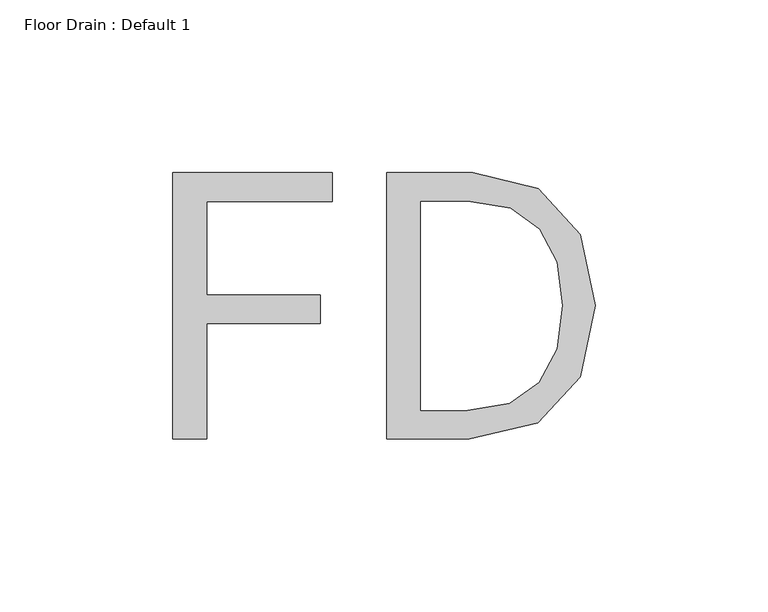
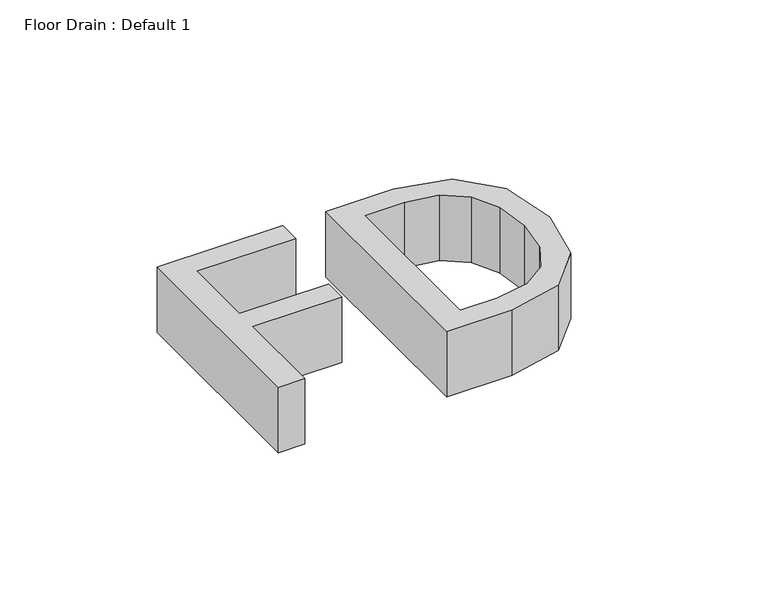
"""IFC4 building model written with IfcOpenShell, lengths in millimetres: proxy geometry, Floor Drain : Default 1."""

import ifcopenshell
import ifcopenshell.guid

model = None  # the IFC model being written
_history = None  # IfcOwnerHistory: only IFC2X3 demands one
_inside = {}  # id of a spatial element -> (the spatial element, [elements in it])
_under = {}  # id of a project, library or spatial element -> (it, [spatial elements below it])
_declared = {}  # id of a project -> (the project, [libraries it declares])
_typed = {}  # id of a type object -> (the type object, [elements of that type])
_made_of = {}  # id of a material, layer set ... -> (it, [elements and type objects made of it])


def new_model(schema):
    """Start an empty IFC model of exactly this schema.

    Asked for "IFC4X3", IfcOpenShell would pick the latest addendum, in which some entities
    have other attributes; the version numbers below select the first issue.
    IFC2X3 requires an IfcOwnerHistory on every rooted entity: one is made here for all.
    """
    global model, _history
    if schema == "IFC4X3":
        model = ifcopenshell.file(schema_version=(4, 3, 0, 0))
    else:
        model = ifcopenshell.file(schema=schema)
    _inside.clear()
    _under.clear()
    _declared.clear()
    _typed.clear()
    _made_of.clear()
    _history = None
    if model.schema == "IFC2X3":
        org = make("IfcOrganization", Name="unknown")
        user = make(
            "IfcPersonAndOrganization",
            ThePerson=make("IfcPerson", FamilyName="unknown"),
            TheOrganization=org,
        )
        app = make(
            "IfcApplication",
            ApplicationDeveloper=org,
            Version="unknown",
            ApplicationFullName="unknown",
            ApplicationIdentifier="unknown",
        )
        _history = make(
            "IfcOwnerHistory",
            OwningUser=user,
            OwningApplication=app,
            ChangeAction="ADDED",
            CreationDate=0,
        )
    return model


def make(cls, **values):
    """One entity of the class cls with the attributes given. An attribute that is None is left unset."""
    return model.create_entity(
        cls, **{name: value for name, value in values.items() if value is not None}
    )


def rooted(cls, **values):
    """An entity with a GlobalId (a new one), such as an element, a storey or a relation."""
    return make(cls, GlobalId=ifcopenshell.guid.new(), OwnerHistory=_history, **values)


def si_unit(unit_type, name, prefix=None):
    """IfcSIUnit, for example si_unit("LENGTHUNIT", "METRE", prefix="MILLI")."""
    return make("IfcSIUnit", UnitType=unit_type, Prefix=prefix, Name=name)


def assignment(units):
    """IfcUnitAssignment: the units of a project."""
    return None if units is None else make("IfcUnitAssignment", Units=units)


def point(xyz):
    """IfcCartesianPoint."""
    return None if xyz is None else make("IfcCartesianPoint", Coordinates=xyz)


def direction(xyz):
    """IfcDirection."""
    return None if xyz is None else make("IfcDirection", DirectionRatios=xyz)


def frame(location, z_axis=None, x_axis=None):
    """IfcAxis2Placement3D, a coordinate frame: its origin and axes. An axis left out is left unset."""
    return make(
        "IfcAxis2Placement3D",
        Location=point(location),
        Axis=direction(z_axis),
        RefDirection=direction(x_axis),
    )


def origin():
    """The frame at (0, 0, 0) with its axes left unset."""
    return frame((0.0, 0.0, 0.0))


def origin_with_axes():
    """The frame at (0, 0, 0) with the z axis (0, 0, 1) and the x axis (1, 0, 0) written out."""
    return frame((0.0, 0.0, 0.0), z_axis=(0.0, 0.0, 1.0), x_axis=(1.0, 0.0, 0.0))


def place(relative_to, where):
    """IfcLocalPlacement: puts the frame where relative to a parent placement (None: the world)."""
    return make(
        "IfcLocalPlacement", PlacementRelTo=relative_to, RelativePlacement=where
    )


def context(
    kind, dimensions, precision=None, world=None, true_north=None, identifier=None
):
    """IfcGeometricRepresentationContext, for example the 3D "Model" context."""
    return make(
        "IfcGeometricRepresentationContext",
        ContextIdentifier=identifier,
        ContextType=kind,
        CoordinateSpaceDimension=dimensions,
        Precision=precision,
        WorldCoordinateSystem=world,
        TrueNorth=true_north,
    )


def project(units=None, contexts=None):
    """IfcProject with its units and contexts."""
    return rooted(
        "IfcProject",
        Name="project",
        RepresentationContexts=contexts,
        UnitsInContext=assignment(units),
    )


def spatial(cls, under=None, at=None, **own):
    """A site, building, storey or space (cls), placed at a placement, below another one or the project."""
    s = rooted(cls, ObjectPlacement=at, **own)
    if under is not None:
        _under.setdefault(under.id(), (under, []))[1].append(s)
    return s


def polyline(points):
    """IfcPolyline through the points."""
    return make("IfcPolyline", Points=[point(p) for p in points])


def outline(outer, holes=None, kind="AREA"):
    """IfcArbitraryClosedProfileDef: a profile drawn as a closed curve; with holes, ...WithVoids."""
    if holes is None:
        return make("IfcArbitraryClosedProfileDef", ProfileType=kind, OuterCurve=outer)
    return make(
        "IfcArbitraryProfileDefWithVoids",
        ProfileType=kind,
        OuterCurve=outer,
        InnerCurves=holes,
    )


def extrude(swept, where, along, depth):
    """IfcExtrudedAreaSolid: the profile swept, set in the frame where, extruded along a direction by depth."""
    return make(
        "IfcExtrudedAreaSolid",
        SweptArea=swept,
        Position=where,
        ExtrudedDirection=direction(along),
        Depth=depth,
    )


def shape(context_of_items, identifier, shape_type, items):
    """IfcShapeRepresentation: the items that make up one representation, for example the "Body"."""
    return make(
        "IfcShapeRepresentation",
        ContextOfItems=context_of_items,
        RepresentationIdentifier=identifier,
        RepresentationType=shape_type,
        Items=items,
    )


def source(mapping_origin, context_of_items, identifier, shape_type, items):
    """IfcRepresentationMap: a shape defined once, which mapped items show again and again."""
    return make(
        "IfcRepresentationMap",
        MappingOrigin=mapping_origin,
        MappedRepresentation=shape(context_of_items, identifier, shape_type, items),
    )


def transform(
    local_origin,
    x_axis=None,
    y_axis=None,
    z_axis=None,
    scale=None,
    scale2=None,
    scale3=None,
    uniform=True,
):
    """IfcCartesianTransformationOperator3D, or its non-uniform kind. x_axis, y_axis, z_axis: its Axis1, 2, 3."""
    if uniform:
        return make(
            "IfcCartesianTransformationOperator3D",
            Axis1=direction(x_axis),
            Axis2=direction(y_axis),
            LocalOrigin=point(local_origin),
            Scale=scale,
            Axis3=direction(z_axis),
        )
    return make(
        "IfcCartesianTransformationOperator3DnonUniform",
        Axis1=direction(x_axis),
        Axis2=direction(y_axis),
        LocalOrigin=point(local_origin),
        Scale=scale,
        Axis3=direction(z_axis),
        Scale2=scale2,
        Scale3=scale3,
    )


def mapped(mapping_source, mapping_target):
    """IfcMappedItem: shows the shape of a source again, moved by a transform."""
    return make(
        "IfcMappedItem", MappingSource=mapping_source, MappingTarget=mapping_target
    )


def made_of(thing, what):
    """Note that an element or type object is made of a material, layer set ...; save() writes the relation."""
    if what is not None:
        _made_of.setdefault(what.id(), (what, []))[1].append(thing)
    return thing


def element(
    cls,
    number,
    at=None,
    inside=None,
    cuts=None,
    type_object=None,
    material=None,
    context=None,
    identifier="Body",
    shape_type=None,
    held_by="IfcProductDefinitionShape",
    body=None,
    shapes=None,
    **own,
):
    """One element of the class cls, such as IfcWall. Its Tag is "e" and its number.

    at: its placement. inside: the storey or other place that contains it. cuts: it is an
    opening in that element (IfcRelVoidsElement). A single representation is given by context,
    identifier, shape_type and body (its items); several are given by shapes. held_by: the class
    of the entity that holds the representations. save() writes the other relations.
    """
    e = rooted(cls, Tag="e%d" % number, ObjectPlacement=at, **own)
    if body is not None:
        shapes = [shape(context, identifier, shape_type, body)]
    if shapes is not None:
        e.Representation = make(held_by, Representations=shapes)
    if inside is not None:
        _inside.setdefault(inside.id(), (inside, []))[1].append(e)
    if cuts is not None:
        rooted(
            "IfcRelVoidsElement", RelatingBuildingElement=cuts, RelatedOpeningElement=e
        )
    if type_object is not None:
        _typed.setdefault(type_object.id(), (type_object, []))[1].append(e)
    return made_of(e, material)


def aggregate(whole, parts):
    """IfcRelAggregates: a whole, such as a stair, and the parts it consists of."""
    return rooted("IfcRelAggregates", RelatingObject=whole, RelatedObjects=parts)


def save(model, path):
    """Write the relations noted so far, then the file.

    IfcRelAggregates (storeys below a building ...), IfcRelContainedInSpatialStructure (elements
    in a storey), IfcRelDefinesByType, IfcRelAssociatesMaterial and IfcRelDeclares: one each for
    every whole, place, type object, material and project.
    """
    for whole, parts in _under.values():
        aggregate(whole, parts)
    for where, things in _inside.values():
        rooted(
            "IfcRelContainedInSpatialStructure",
            RelatedElements=things,
            RelatingStructure=where,
        )
    for kind, things in _typed.values():
        rooted("IfcRelDefinesByType", RelatedObjects=things, RelatingType=kind)
    for what, things in _made_of.values():
        rooted("IfcRelAssociatesMaterial", RelatedObjects=things, RelatingMaterial=what)
    for by, libraries in _declared.values():
        rooted("IfcRelDeclares", RelatingContext=by, RelatedDefinitions=libraries)
    model.write(path)


def floor_drain_default_1_1623d9fd(model_context):
    return source(origin(), model_context, "Body", "SweptSolid", [
        extrude(outline(polyline([(138.3632209, -41.2449171), (138.3632209, 35.7292608), (184.4412572, 35.7292608), (184.4412572, 27.4679441), (148.0835769, 27.4679441), (148.0835769, 0.3968513), (180.9513931, 0.3968513), (180.9513931, -7.8644655), (148.0835769, -7.8644655), (148.0835769, -41.2449171), (138.3632209, -41.2449171)])), origin_with_axes(), (0.0, 0.0, 1.0), 25.4),
        extrude(outline(polyline([(223.9733337, -41.2449171), (200.1949376, -41.2449171), (200.1949376, 35.7292608), (224.9394543, 35.7292608), (243.9956897, 31.1352589), (256.1116303, 17.9348972), (260.3310141, -2.6000942), (256.0919136, -23.2928195), (243.7196552, -36.591765), (223.9733337, -41.2449171)]), holes=[polyline([(209.9152935, -32.9836004), (223.3621146, -32.9836004), (235.4953074, -30.9601693), (244.0942734, -24.889876), (249.2181629, -15.2705683), (250.926126, -2.6000942), (249.2502026, 9.9693316), (244.2224323, 19.4826618), (235.8871777, 25.4716235), (224.2888017, 27.4679441), (209.9152935, 27.4679441), (209.9152935, -32.9836004)])]), origin_with_axes(), (0.0, 0.0, 1.0), 25.4),
    ])


if __name__ == "__main__":
    model = new_model("IFC4")
    model_context = context("Model", 3, world=origin())
    ifc_project = project(units=[si_unit("LENGTHUNIT", "METRE", prefix="MILLI")], contexts=[model_context])
    site = spatial("IfcSite", under=ifc_project)
    building = spatial("IfcBuilding", under=site)
    placement = place(None, origin())
    floor_drain_default_1_shape = floor_drain_default_1_1623d9fd(model_context)
    element("IfcBuildingElementProxy", 1, Name="Floor Drain : Default 1", ObjectType="Floor Drain : Default 1", at=placement, inside=building, context=model_context, shape_type="MappedRepresentation", body=[
        mapped(floor_drain_default_1_shape, transform((0.0, 0.0, 0.0), x_axis=(1.0, 0.0, 0.0), y_axis=(0.0, 1.0, 0.0), z_axis=(0.0, 0.0, 1.0))),
    ])
    save(model, "model.ifc")
